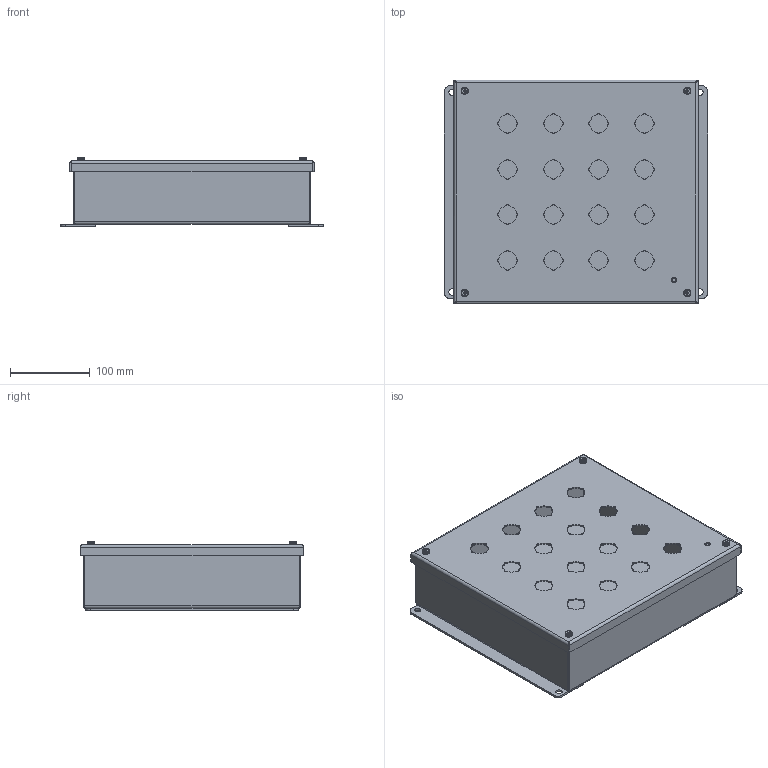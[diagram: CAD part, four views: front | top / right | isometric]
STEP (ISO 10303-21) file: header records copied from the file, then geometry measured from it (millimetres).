
FILE_DESCRIPTION((''),'2;1');
FILE_NAME('MODEL-041_ASM','2015-05-05T',('mikek'),('SAGINAW CONTROL & ENGINEERING'),'PRO/ENGINEER BY PARAMETRIC TECHNOLOGY CORPORATION, 2012070','PRO/ENGINEER BY PARAMETRIC TECHNOLOGY CORPORATION, 2012070','');
FILE_SCHEMA(('AUTOMOTIVE_DESIGN { 1 0 10303 214 1 1 1 1 }'));
Length unit declared in the file: inch
Products named in the file (10): MODEL-041-BDY; MODEL-041-DR; 100063; 102213; 101966; 100009; 100983; 102534; MODEL-041-GSKT; MODEL-041_ASM
Assembly tree (16 placements, depth 2):
  MODEL-041_ASM
    MODEL-041-BDY
    MODEL-041-DR
    100063
    102213  x2
    101966
    100009
    100983  x4
    102534  x4
    MODEL-041-GSKT
Bounding box: 330.2 x 280.99 x 86.42 mm (x, y, z)
Volume: 493637.6 mm3; surface area: 622263.5 mm2
Topology: 19 solids, 19 shells, 947 faces, 2430 edges, 1476 vertices
Faces by surface type: cylinder 488, plane 247, bspline 104, torus 80, cone 28
Entity records: 28939 total; most frequent: CARTESIAN_POINT 7049, DIRECTION 3660, ORIENTED_EDGE 3320, EDGE_CURVE 1660, PRESENTATION_STYLE_ASSIGNMENT 1572, STYLED_ITEM 1572, CURVE_STYLE 1496, AXIS2_PLACEMENT_3D 1466
